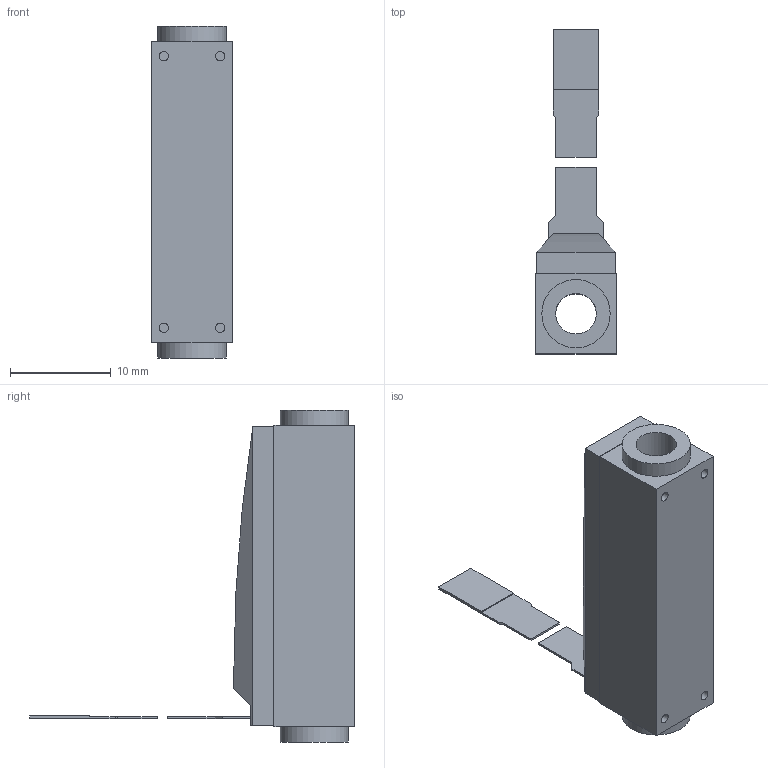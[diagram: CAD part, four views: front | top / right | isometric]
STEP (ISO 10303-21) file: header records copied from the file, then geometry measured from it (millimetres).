
FILE_DESCRIPTION(/* description */ (''),/* implementation_level */ '2;1');
FILE_NAME(/* name */ '0830_01.stp',/* time_stamp */ '2017-08-01T11:13:04+02:00',/* author */ ('DR. FRITZ FAULHABER GmbH & Co. KG'),/* organization */ ('DR. FRITZ FAULHABER GmbH & Co. KG'),/* preprocessor_version */ 'ST-DEVELOPER v16',/* originating_system */ 'SIEMENS PLM Software NX 10.0',/* authorisation */ '');
FILE_SCHEMA (('AUTOMOTIVE_DESIGN { 1 0 10303 214 3 1 1 1 }'));
Length unit declared in the file: millimetre
Products named in the file (1): Alle_Motoren
Bounding box: 8 x 32.3 x 33 mm (x, y, z)
Volume: 2347.5 mm3; surface area: 1954.1 mm2
Topology: 2 solids, 2 shells, 102 faces, 256 edges, 170 vertices
Faces by surface type: plane 85, extrusion 9, cylinder 8
Full cylindrical faces by diameter (mm): 0.95 x4, 4.03 x1, 6.8 x2
Entity records: 3221 total; most frequent: CARTESIAN_POINT 801, ORIENTED_EDGE 498, DIRECTION 434, EDGE_CURVE 249, VECTOR 214, LINE 205, VERTEX_POINT 170, EDGE_LOOP 123
